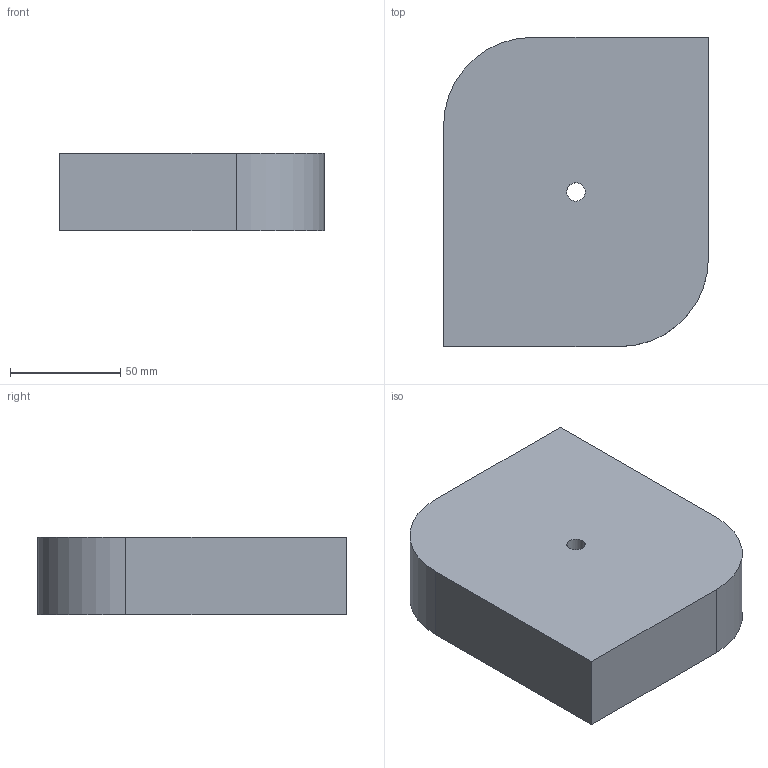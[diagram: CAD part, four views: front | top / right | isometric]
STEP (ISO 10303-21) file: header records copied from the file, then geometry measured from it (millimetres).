
FILE_DESCRIPTION(('CATIA V5 STEP Exchange'),'2;1');
FILE_NAME('C:\_Andres\UNIVERSIDAD\IQS\ASIGNATURAS\DAO\EXF\EXF-15161c\1original\Garcia_Granada_Ej01-plano_v30.stp','2016-03-04T14:59:48+00:00',('none'),('none'),'CATIA Version 5 Release 20 SP 1 (IN-10)','CATIA V5 STEP AP203','none');
FILE_SCHEMA(('CONFIG_CONTROL_DESIGN'));
Length unit declared in the file: millimetre
Products named in the file (1): Garcia_Granada_Ej01-plano_v30
Bounding box: 120 x 140 x 35 mm (x, y, z)
Volume: 562036 mm3; surface area: 50035.6 mm2
Topology: 1 solids, 1 shells, 10 faces, 24 edges, 16 vertices
Faces by surface type: plane 6, cylinder 4
Entity records: 333 total; most frequent: CARTESIAN_POINT 51, ORIENTED_EDGE 48, DIRECTION 44, EDGE_CURVE 24, AXIS2_PLACEMENT_3D 19, VECTOR 16, LINE 16, VERTEX_POINT 16
